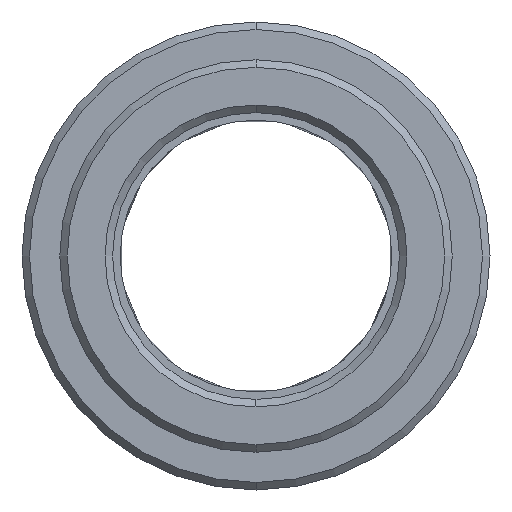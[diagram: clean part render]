
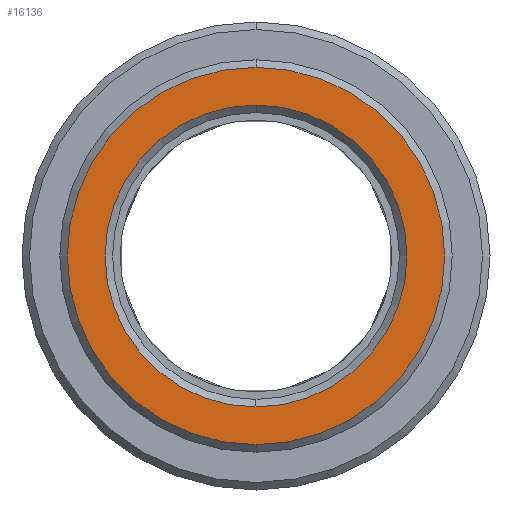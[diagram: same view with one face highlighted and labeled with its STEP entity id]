
A CAD part, left-side view. The second image highlights one B-rep face of the part: STEP entity #16136.
In plain terms, the highlighted planar face has unit normal (-1, 0, 0).
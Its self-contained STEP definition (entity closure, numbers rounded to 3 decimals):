
#6374=CARTESIAN_POINT('',(-8.,0.,
0.));
#6375=DIRECTION('',(1.,0.,0.));
#6376=DIRECTION('',(0.,0.,1.));
#6377=AXIS2_PLACEMENT_3D('',#6374,#6375,#6376);
#6379=CARTESIAN_POINT('',(-8.,0.,0.));
#6380=DIRECTION('',(1.,0.,0.));
#6381=DIRECTION('',(0.,0.,-1.));
#6382=AXIS2_PLACEMENT_3D('',#6379,#6380,#6381);
#6384=CARTESIAN_POINT('',(-8.,0.,0.));
#6385=DIRECTION('',(1.,0.,0.));
#6386=DIRECTION('',(0.,0.,1.));
#6387=AXIS2_PLACEMENT_3D('',#6384,#6385,#6386);
#6389=CARTESIAN_POINT('',(-8.,0.,
0.));
#6390=DIRECTION('',(1.,0.,0.));
#6391=DIRECTION('',(0.,0.,-1.));
#6392=AXIS2_PLACEMENT_3D('',#6389,#6390,#6391);
#13562=CARTESIAN_POINT('',(-8.,0.,12.5));
#13563=CARTESIAN_POINT('',(-8.,0.,-12.5));
#13564=VERTEX_POINT('',#13562);
#13565=VERTEX_POINT('',#13563);
#13566=CARTESIAN_POINT('',(-8.,0.,10.));
#13567=CARTESIAN_POINT('',(-8.,0.,-10.));
#13568=VERTEX_POINT('',#13566);
#13569=VERTEX_POINT('',#13567);
#16120=CARTESIAN_POINT('',(-8.,0.,0.));
#16121=DIRECTION('',(1.,0.,0.));
#16122=DIRECTION('',(0.,0.,1.));
#16123=AXIS2_PLACEMENT_3D('',#16120,#16121,#16122);
#16124=PLANE('',#16123);
#16126=ORIENTED_EDGE('',*,*,#16125,.T.);
#16128=ORIENTED_EDGE('',*,*,#16127,.T.);
#16129=EDGE_LOOP('',(#16126,#16128));
#16130=FACE_OUTER_BOUND('',#16129,.F.);
#16131=ORIENTED_EDGE('',*,*,#16110,.F.);
#16133=ORIENTED_EDGE('',*,*,#16132,.F.);
#16134=EDGE_LOOP('',(#16131,#16133));
#16135=FACE_BOUND('',#16134,.F.);
#16136=ADVANCED_FACE('',(#16130,#16135),#16124,.F.);
#6378=CIRCLE('',#6377,12.5);
#6383=CIRCLE('',#6382,12.5);
#6388=CIRCLE('',#6387,10.);
#6393=CIRCLE('',#6392,10.);
#16110=EDGE_CURVE('',#13568,#13569,#6388,.T.);
#16125=EDGE_CURVE('',#13564,#13565,#6378,.T.);
#16127=EDGE_CURVE('',#13565,#13564,#6383,.T.);
#16132=EDGE_CURVE('',#13569,#13568,#6393,.T.);
